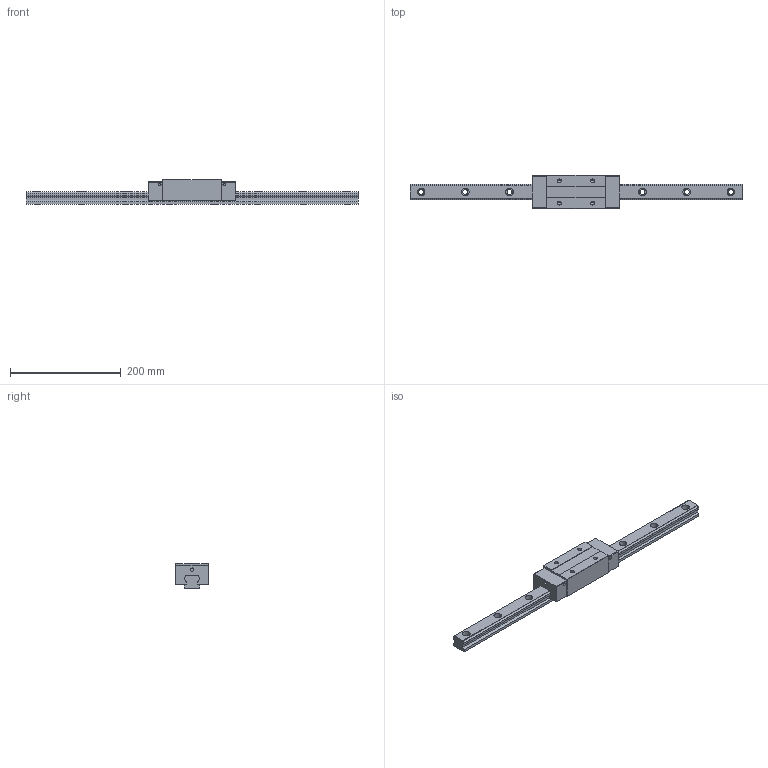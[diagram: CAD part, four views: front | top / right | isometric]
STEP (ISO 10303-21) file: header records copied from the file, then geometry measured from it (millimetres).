
FILE_DESCRIPTION (( 'STEP AP203' ), '1' );
FILE_NAME ('TRH30VE-DZ.STEP', '2024-07-10T08:12:23', ( '' ), ( '' ), 'SwSTEP 2.0', 'SolidWorks 2022', '' );
FILE_SCHEMA (( 'CONFIG_CONTROL_DESIGN' ));
Length unit declared in the file: millimetre
Products named in the file (1): TRH30VE-DZ
Bounding box: 600 x 60 x 45 mm (x, y, z)
Volume: 600739.2 mm3; surface area: 111560.4 mm2
Topology: 2 solids, 2 shells, 186 faces, 488 edges, 316 vertices
Faces by surface type: cylinder 88, plane 82, cone 16
Entity records: 5819 total; most frequent: DIRECTION 1038, CARTESIAN_POINT 983, ORIENTED_EDGE 960, EDGE_CURVE 480, AXIS2_PLACEMENT_3D 371, VERTEX_POINT 316, VECTOR 296, LINE 296
